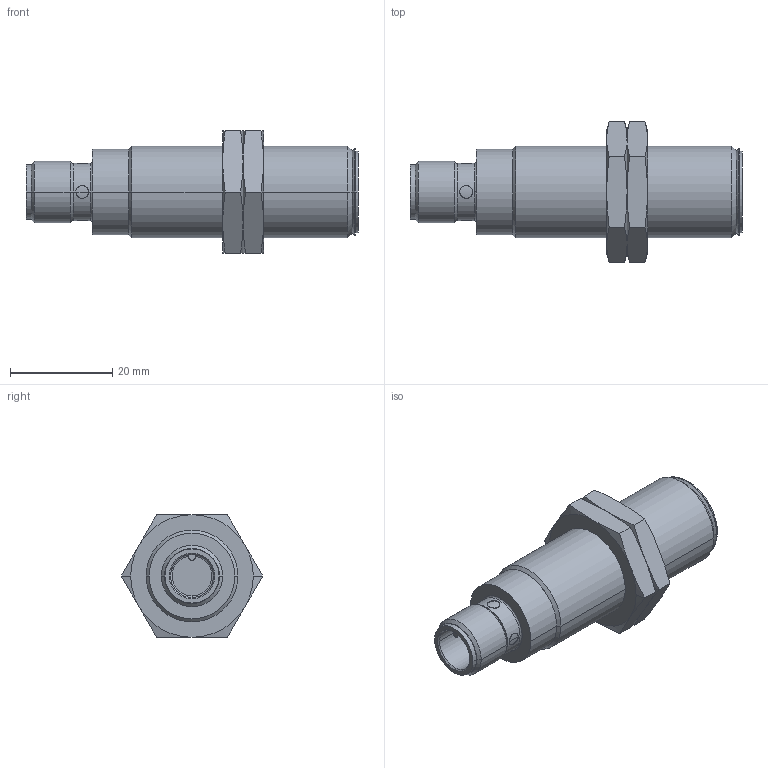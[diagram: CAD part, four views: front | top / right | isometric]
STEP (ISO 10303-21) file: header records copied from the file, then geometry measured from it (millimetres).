
FILE_DESCRIPTION( ( '' ), '1' );
FILE_NAME( '//partserver001.servicenet/client_exchange/iodir/jobs/output/wkb12387547_no0/STEP/igc232_2_03.stp', '2008-10-06T06:49:35', ( '' ), ( '' ), ' ', ' ', ' ' );
FILE_SCHEMA( ( 'CONFIG_CONTROL_DESIGN' ) );
Length unit declared in the file: millimetre
Products named in the file (3): 1; 2; 3
Bounding box: 65 x 27.71 x 24 mm (x, y, z)
Volume: 15948.8 mm3; surface area: 6195.1 mm2
Topology: 3 solids, 3 shells, 120 faces, 262 edges, 156 vertices
Faces by surface type: cone 52, cylinder 35, plane 27, torus 6
Entity records: 3596 total; most frequent: CARTESIAN_POINT 935, DIRECTION 550, ORIENTED_EDGE 524, EDGE_CURVE 262, AXIS2_PLACEMENT_3D 235, VERTEX_POINT 156, EDGE_LOOP 132, ADVANCED_FACE 120
